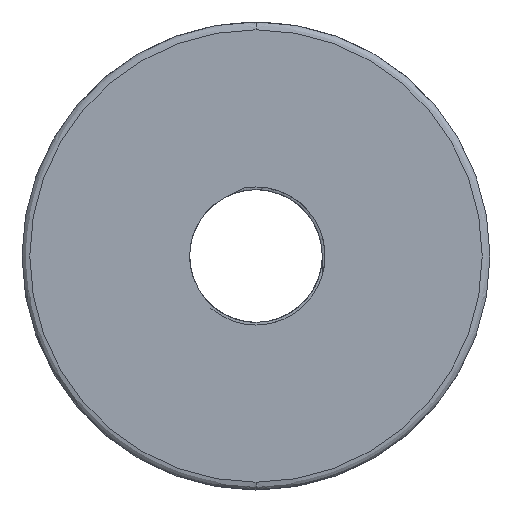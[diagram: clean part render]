
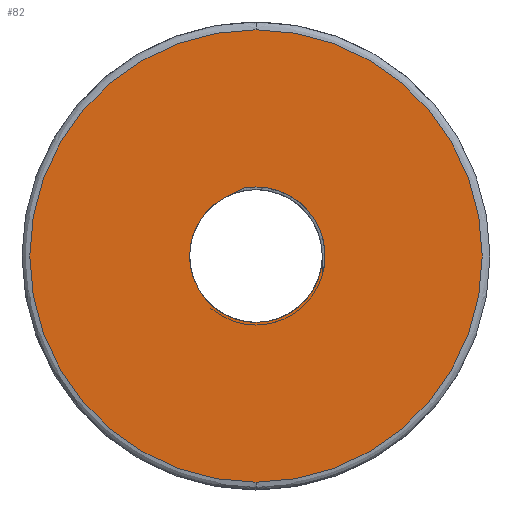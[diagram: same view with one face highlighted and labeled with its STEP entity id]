
A CAD part, front view. The second image highlights one B-rep face of the part: STEP entity #82.
In plain terms, the highlighted free-form (B-spline) face has degree [1, 1] with [2, 2] control points.
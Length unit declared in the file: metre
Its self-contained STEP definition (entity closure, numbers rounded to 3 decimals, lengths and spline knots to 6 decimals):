
#82 = ADVANCED_FACE( '', ( #149, #150 ), #151, .F. );
#149 = FACE_BOUND( '', #636, .T. );
#150 = FACE_OUTER_BOUND( '', #637, .T. );
#151 = B_SPLINE_SURFACE_WITH_KNOTS( '', 1, 1, ( ( #638, #639 ), ( #640, #641 ) ), .UNSPECIFIED., .F., .F., .F., ( 2, 2 ), ( 2, 2 ), ( 0., 1. ), ( 0., 1. ), .UNSPECIFIED. );
#636 = EDGE_LOOP( '', ( #1405, #1406, #1407, #1408, #1409, #1410 ) );
#637 = EDGE_LOOP( '', ( #1411, #1412 ) );
#638 = CARTESIAN_POINT( '', ( -0.014674, 0., -0.014674 ) );
#639 = CARTESIAN_POINT( '', ( 0.014674, 0., -0.014674 ) );
#640 = CARTESIAN_POINT( '', ( -0.014674, 0., 0.014674 ) );
#641 = CARTESIAN_POINT( '', ( 0.014674, 0., 0.014674 ) );
#1405 = ORIENTED_EDGE( '', *, *, #1835, .F. );
#1406 = ORIENTED_EDGE( '', *, *, #1845, .F. );
#1407 = ORIENTED_EDGE( '', *, *, #1886, .F. );
#1408 = ORIENTED_EDGE( '', *, *, #1887, .F. );
#1409 = ORIENTED_EDGE( '', *, *, #1888, .F. );
#1410 = ORIENTED_EDGE( '', *, *, #1868, .F. );
#1411 = ORIENTED_EDGE( '', *, *, #1889, .F. );
#1412 = ORIENTED_EDGE( '', *, *, #1890, .F. );
#1835 = EDGE_CURVE( '', #1994, #1995, #1996, .F. );
#1845 = EDGE_CURVE( '', #2012, #1994, #2014, .F. );
#1868 = EDGE_CURVE( '', #1995, #2059, #2060, .T. );
#1886 = EDGE_CURVE( '', #2093, #2012, #2094, .T. );
#1887 = EDGE_CURVE( '', #2095, #2093, #2096, .T. );
#1888 = EDGE_CURVE( '', #2059, #2095, #2097, .T. );
#1889 = EDGE_CURVE( '', #2098, #2099, #2100, .T. );
#1890 = EDGE_CURVE( '', #2099, #2098, #2101, .T. );
#1994 = VERTEX_POINT( '', #2255 );
#1995 = VERTEX_POINT( '', #2256 );
#1996 = CIRCLE( '', #2257, 0.004424 );
#2012 = VERTEX_POINT( '', #2313 );
#2014 = CIRCLE( '', #2332, 0.004424 );
#2059 = VERTEX_POINT( '', #2739 );
#2060 = LINE( '', #2740, #2741 );
#2093 = VERTEX_POINT( '', #3163 );
#2094 = LINE( '', #3164, #3165 );
#2095 = VERTEX_POINT( '', #3166 );
#2096 = CIRCLE( '', #3167, 0.00425 );
#2097 = CIRCLE( '', #3168, 0.00425 );
#2098 = VERTEX_POINT( '', #3169 );
#2099 = VERTEX_POINT( '', #3170 );
#2100 = CIRCLE( '', #3171, 0.0145 );
#2101 = CIRCLE( '', #3172, 0.0145 );
#2255 = CARTESIAN_POINT( '', ( 0., 0., 0.004424 ) );
#2256 = CARTESIAN_POINT( '', ( -0.000789, 0., 0.004353 ) );
#2257 = AXIS2_PLACEMENT_3D( '', #3963, #3964, #3965 );
#2313 = CARTESIAN_POINT( '', ( 0.004244, 0., -0.00125 ) );
#2332 = AXIS2_PLACEMENT_3D( '', #3974, #3975, #3976 );
#2739 = CARTESIAN_POINT( '', ( -0.001891, 0., 0.003806 ) );
#2740 = CARTESIAN_POINT( '', ( -0.001346, 0., 0.004077 ) );
#2741 = VECTOR( '', #3977, 1. );
#3163 = CARTESIAN_POINT( '', ( 0.00425, 0., -0.00002 ) );
#3164 = CARTESIAN_POINT( '', ( 0.004247, 0., -0.000629 ) );
#3165 = VECTOR( '', #3979, 1. );
#3166 = CARTESIAN_POINT( '', ( 0., 0., -0.00425 ) );
#3167 = AXIS2_PLACEMENT_3D( '', #3980, #3981, #3982 );
#3168 = AXIS2_PLACEMENT_3D( '', #3983, #3984, #3985 );
#3169 = CARTESIAN_POINT( '', ( 0., 0., 0.0145 ) );
#3170 = CARTESIAN_POINT( '', ( 0., 0., -0.0145 ) );
#3171 = AXIS2_PLACEMENT_3D( '', #3986, #3987, #3988 );
#3172 = AXIS2_PLACEMENT_3D( '', #3989, #3990, #3991 );
#3963 = CARTESIAN_POINT( '', ( 0., 0., 0. ) );
#3964 = DIRECTION( '', ( 0., 1., 0. ) );
#3965 = DIRECTION( '', ( 0., 0., 1. ) );
#3974 = CARTESIAN_POINT( '', ( 0., 0., 0. ) );
#3975 = DIRECTION( '', ( 0., 1., 0. ) );
#3976 = DIRECTION( '', ( 0., 0., 1. ) );
#3977 = DIRECTION( '', ( -0.896, 0., -0.445 ) );
#3979 = DIRECTION( '', ( -0.005, 0., -1. ) );
#3980 = CARTESIAN_POINT( '', ( 0., 0., 0. ) );
#3981 = DIRECTION( '', ( 0., -1., 0. ) );
#3982 = DIRECTION( '', ( 0., 0., -1. ) );
#3983 = CARTESIAN_POINT( '', ( 0., 0., 0. ) );
#3984 = DIRECTION( '', ( 0., -1., 0. ) );
#3985 = DIRECTION( '', ( 0., 0., -1. ) );
#3986 = CARTESIAN_POINT( '', ( 0., 0., 0. ) );
#3987 = DIRECTION( '', ( 0., 1., 0. ) );
#3988 = DIRECTION( '', ( -1., 0., 0. ) );
#3989 = CARTESIAN_POINT( '', ( 0., 0., 0. ) );
#3990 = DIRECTION( '', ( 0., 1., 0. ) );
#3991 = DIRECTION( '', ( -1., 0., 0. ) );
